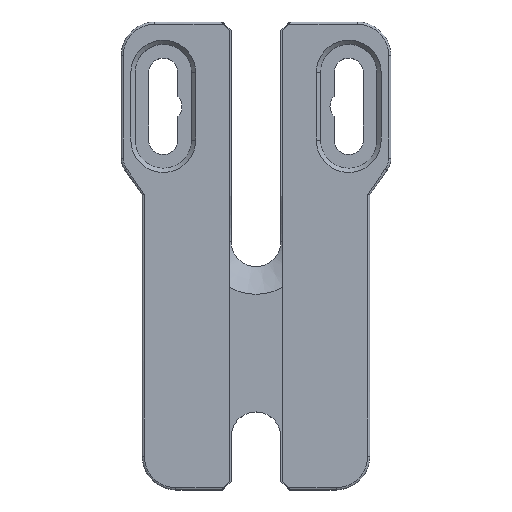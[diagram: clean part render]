
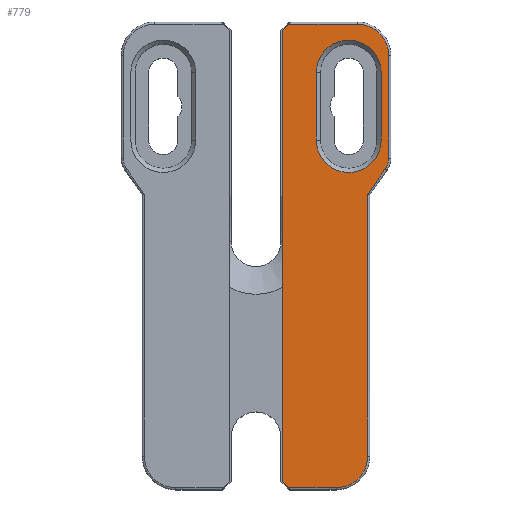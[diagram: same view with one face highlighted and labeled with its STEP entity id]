
A CAD part, top view. The second image highlights one B-rep face of the part: STEP entity #779.
In plain terms, the highlighted planar face has unit normal (0, 0, 1).
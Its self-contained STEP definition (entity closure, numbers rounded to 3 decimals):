
#49 = CARTESIAN_POINT ( 'NONE',  ( 14.3, 99., 19. ) ) ;
#68 = ORIENTED_EDGE ( 'NONE', *, *, #1121, .T. ) ;
#149 = EDGE_CURVE ( 'NONE', #2226, #1758, #2595, .T. ) ;
#153 = EDGE_LOOP ( 'NONE', ( #918, #352, #1016, #659, #537, #2242, #2864, #731, #770, #2481, #1279 ) ) ;
#181 = VECTOR ( 'NONE', #295, 1000. ) ;
#236 = ORIENTED_EDGE ( 'NONE', *, *, #331, .T. ) ;
#257 = CARTESIAN_POINT ( 'NONE',  ( 14.3, 83., 19. ) ) ;
#295 = DIRECTION ( 'NONE',  ( 0., 1., 0. ) ) ;
#331 = EDGE_CURVE ( 'NONE', #651, #424, #1744, .T. ) ;
#352 = ORIENTED_EDGE ( 'NONE', *, *, #764, .T. ) ;
#375 = VECTOR ( 'NONE', #1465, 1000. ) ;
#376 = CIRCLE ( 'NONE', #626, 7.5 ) ;
#379 = VERTEX_POINT ( 'NONE', #2894 ) ;
#381 = LINE ( 'NONE', #1747, #375 ) ;
#389 = AXIS2_PLACEMENT_3D ( 'NONE', #2220, #2213, #950 ) ;
#411 = VECTOR ( 'NONE', #2611, 1000. ) ;
#414 = LINE ( 'NONE', #1552, #181 ) ;
#424 = VERTEX_POINT ( 'NONE', #49 ) ;
#441 = DIRECTION ( 'NONE',  ( 1., 0., 0. ) ) ;
#444 = LINE ( 'NONE', #2641, #411 ) ;
#537 = ORIENTED_EDGE ( 'NONE', *, *, #1950, .T. ) ;
#544 = DIRECTION ( 'NONE',  ( 1., 0., 0. ) ) ;
#547 = DIRECTION ( 'NONE',  ( 0., 0., 1. ) ) ;
#553 = CARTESIAN_POINT ( 'NONE',  ( 24., 103., 19. ) ) ;
#558 = VERTEX_POINT ( 'NONE', #2567 ) ;
#584 = CARTESIAN_POINT ( 'NONE',  ( 30.686, 76.136, 19. ) ) ;
#592 = LINE ( 'NONE', #699, #637 ) ;
#598 = CIRCLE ( 'NONE', #389, 7.5 ) ;
#626 = AXIS2_PLACEMENT_3D ( 'NONE', #553, #547, #544 ) ;
#637 = VECTOR ( 'NONE', #741, 1000. ) ;
#651 = VERTEX_POINT ( 'NONE', #257 ) ;
#657 = CARTESIAN_POINT ( 'NONE',  ( 22., 99., 19. ) ) ;
#659 = ORIENTED_EDGE ( 'NONE', *, *, #2029, .F. ) ;
#686 = CARTESIAN_POINT ( 'NONE',  ( 19., 0.5, 19. ) ) ;
#699 = CARTESIAN_POINT ( 'NONE',  ( -49.367, 53.333, 19. ) ) ;
#731 = ORIENTED_EDGE ( 'NONE', *, *, #1922, .T. ) ;
#741 = DIRECTION ( 'NONE',  ( -0.707, -0.707, 0. ) ) ;
#764 = EDGE_CURVE ( 'NONE', #2404, #1766, #3250, .T. ) ;
#770 = ORIENTED_EDGE ( 'NONE', *, *, #1345, .T. ) ;
#779 = ADVANCED_FACE ( 'NONE', ( #3165, #3245 ), #1293, .T. ) ;
#793 = VECTOR ( 'NONE', #992, 1000. ) ;
#802 = VERTEX_POINT ( 'NONE', #686 ) ;
#918 = ORIENTED_EDGE ( 'NONE', *, *, #1969, .T. ) ;
#931 = EDGE_CURVE ( 'NONE', #424, #2226, #2933, .T. ) ;
#945 = CARTESIAN_POINT ( 'NONE',  ( 29.7, 99., 19. ) ) ;
#950 = DIRECTION ( 'NONE',  ( 1., 0., 0. ) ) ;
#992 = DIRECTION ( 'NONE',  ( 1., 0., 0. ) ) ;
#1016 = ORIENTED_EDGE ( 'NONE', *, *, #1867, .T. ) ;
#1032 = LINE ( 'NONE', #2006, #793 ) ;
#1072 = CARTESIAN_POINT ( 'NONE',  ( 7.8, 110.5, 19. ) ) ;
#1085 = CARTESIAN_POINT ( 'NONE',  ( 6.3, 109., 19. ) ) ;
#1088 = AXIS2_PLACEMENT_3D ( 'NONE', #1615, #1606, #1600 ) ;
#1121 = EDGE_CURVE ( 'NONE', #1758, #651, #2391, .T. ) ;
#1125 = CARTESIAN_POINT ( 'NONE',  ( 29.7, 83., 19. ) ) ;
#1212 = DIRECTION ( 'NONE',  ( 1., 0., 0. ) ) ;
#1239 = DIRECTION ( 'NONE',  ( 0., 0., 1. ) ) ;
#1273 = VERTEX_POINT ( 'NONE', #2585 ) ;
#1279 = ORIENTED_EDGE ( 'NONE', *, *, #1631, .T. ) ;
#1280 = CARTESIAN_POINT ( 'NONE',  ( 32., -28.034, 19. ) ) ;
#1291 = CIRCLE ( 'NONE', #1088, 4.5 ) ;
#1292 = VECTOR ( 'NONE', #1778, 1000. ) ;
#1293 = PLANE ( 'NONE',  #1945 ) ;
#1297 = LINE ( 'NONE', #1800, #1292 ) ;
#1345 = EDGE_CURVE ( 'NONE', #1416, #2787, #1837, .T. ) ;
#1416 = VERTEX_POINT ( 'NONE', #1685 ) ;
#1465 = DIRECTION ( 'NONE',  ( 0.707, -0.707, 0. ) ) ;
#1530 = CARTESIAN_POINT ( 'NONE',  ( 22., 83., 19. ) ) ;
#1534 = CARTESIAN_POINT ( 'NONE',  ( 31.5, 103., 19. ) ) ;
#1552 = CARTESIAN_POINT ( 'NONE',  ( 6.3, -28.034, 19. ) ) ;
#1556 = AXIS2_PLACEMENT_3D ( 'NONE', #1530, #1765, #1779 ) ;
#1568 = CARTESIAN_POINT ( 'NONE',  ( 31.5, 78.717, 19. ) ) ;
#1600 = DIRECTION ( 'NONE',  ( 1., 0., 0. ) ) ;
#1605 = DIRECTION ( 'NONE',  ( -1., 0., 0. ) ) ;
#1606 = DIRECTION ( 'NONE',  ( 0., 0., 1. ) ) ;
#1615 = CARTESIAN_POINT ( 'NONE',  ( 27., 78.717, 19. ) ) ;
#1618 = CARTESIAN_POINT ( 'NONE',  ( 8.3, 110.5, 19. ) ) ;
#1631 = EDGE_CURVE ( 'NONE', #1662, #1665, #1297, .T. ) ;
#1648 = EDGE_CURVE ( 'NONE', #2787, #1662, #1291, .T. ) ;
#1662 = VERTEX_POINT ( 'NONE', #1568 ) ;
#1665 = VERTEX_POINT ( 'NONE', #1534 ) ;
#1685 = CARTESIAN_POINT ( 'NONE',  ( 26.5, 70.158, 19. ) ) ;
#1704 = VECTOR ( 'NONE', #2168, 1000. ) ;
#1744 = LINE ( 'NONE', #3056, #1704 ) ;
#1747 = CARTESIAN_POINT ( 'NONE',  ( 34.167, -25.867, 19. ) ) ;
#1758 = VERTEX_POINT ( 'NONE', #1125 ) ;
#1765 = DIRECTION ( 'NONE',  ( 0., 0., -1. ) ) ;
#1766 = VERTEX_POINT ( 'NONE', #1072 ) ;
#1778 = DIRECTION ( 'NONE',  ( 0., 1., 0. ) ) ;
#1779 = DIRECTION ( 'NONE',  ( 1., 0., 0. ) ) ;
#1782 = EDGE_CURVE ( 'NONE', #1273, #802, #1032, .T. ) ;
#1794 = VECTOR ( 'NONE', #2071, 1000. ) ;
#1800 = CARTESIAN_POINT ( 'NONE',  ( 31.5, 103., 19. ) ) ;
#1837 = LINE ( 'NONE', #2772, #1794 ) ;
#1839 = AXIS2_PLACEMENT_3D ( 'NONE', #657, #2048, #441 ) ;
#1867 = EDGE_CURVE ( 'NONE', #1766, #2911, #592, .T. ) ;
#1922 = EDGE_CURVE ( 'NONE', #558, #1416, #444, .T. ) ;
#1929 = CARTESIAN_POINT ( 'NONE',  ( 29.7, 83., 19. ) ) ;
#1945 = AXIS2_PLACEMENT_3D ( 'NONE', #1280, #1239, #1212 ) ;
#1950 = EDGE_CURVE ( 'NONE', #379, #1273, #381, .T. ) ;
#1969 = EDGE_CURVE ( 'NONE', #1665, #2404, #376, .T. ) ;
#2006 = CARTESIAN_POINT ( 'NONE',  ( 19., 0.5, 19. ) ) ;
#2029 = EDGE_CURVE ( 'NONE', #379, #2911, #414, .T. ) ;
#2048 = DIRECTION ( 'NONE',  ( 0., 0., -1. ) ) ;
#2071 = DIRECTION ( 'NONE',  ( 0.574, 0.819, 0. ) ) ;
#2162 = ORIENTED_EDGE ( 'NONE', *, *, #149, .T. ) ;
#2168 = DIRECTION ( 'NONE',  ( 0., 1., 0. ) ) ;
#2213 = DIRECTION ( 'NONE',  ( 0., 0., 1. ) ) ;
#2220 = CARTESIAN_POINT ( 'NONE',  ( 19., 8., 19. ) ) ;
#2226 = VERTEX_POINT ( 'NONE', #945 ) ;
#2237 = EDGE_CURVE ( 'NONE', #802, #558, #598, .T. ) ;
#2242 = ORIENTED_EDGE ( 'NONE', *, *, #1782, .T. ) ;
#2391 = CIRCLE ( 'NONE', #1556, 7.7 ) ;
#2404 = VERTEX_POINT ( 'NONE', #2486 ) ;
#2481 = ORIENTED_EDGE ( 'NONE', *, *, #1648, .T. ) ;
#2486 = CARTESIAN_POINT ( 'NONE',  ( 24., 110.5, 19. ) ) ;
#2567 = CARTESIAN_POINT ( 'NONE',  ( 26.5, 8., 19. ) ) ;
#2585 = CARTESIAN_POINT ( 'NONE',  ( 7.8, 0.5, 19. ) ) ;
#2595 = LINE ( 'NONE', #1929, #2662 ) ;
#2611 = DIRECTION ( 'NONE',  ( 0., 1., 0. ) ) ;
#2641 = CARTESIAN_POINT ( 'NONE',  ( 26.5, 70., 19. ) ) ;
#2662 = VECTOR ( 'NONE', #3069, 1000. ) ;
#2772 = CARTESIAN_POINT ( 'NONE',  ( 30.686, 76.136, 19. ) ) ;
#2787 = VERTEX_POINT ( 'NONE', #584 ) ;
#2864 = ORIENTED_EDGE ( 'NONE', *, *, #2237, .T. ) ;
#2894 = CARTESIAN_POINT ( 'NONE',  ( 6.3, 2., 19. ) ) ;
#2910 = EDGE_LOOP ( 'NONE', ( #3178, #2162, #68, #236 ) ) ;
#2911 = VERTEX_POINT ( 'NONE', #1085 ) ;
#2933 = CIRCLE ( 'NONE', #1839, 7.7 ) ;
#3056 = CARTESIAN_POINT ( 'NONE',  ( 14.3, 99., 19. ) ) ;
#3069 = DIRECTION ( 'NONE',  ( 0., -1., 0. ) ) ;
#3165 = FACE_BOUND ( 'NONE', #2910, .T. ) ;
#3178 = ORIENTED_EDGE ( 'NONE', *, *, #931, .T. ) ;
#3245 = FACE_OUTER_BOUND ( 'NONE', #153, .T. ) ;
#3246 = VECTOR ( 'NONE', #1605, 1000. ) ;
#3250 = LINE ( 'NONE', #1618, #3246 ) ;
